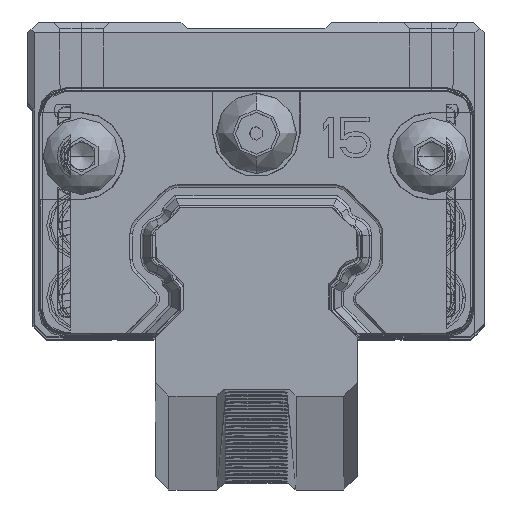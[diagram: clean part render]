
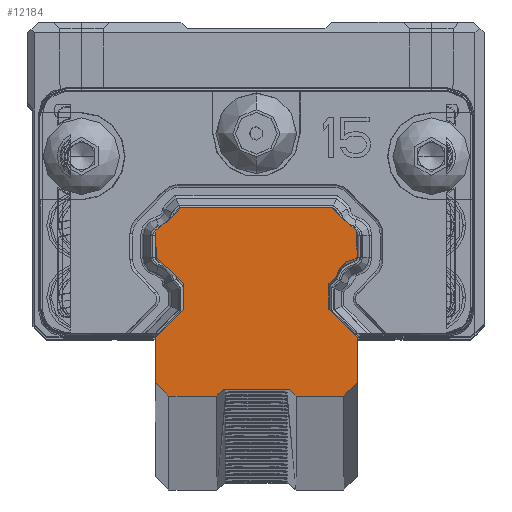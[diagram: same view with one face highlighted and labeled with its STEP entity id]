
A CAD part, top view. The second image highlights one B-rep face of the part: STEP entity #12184.
In plain terms, the highlighted planar face has unit normal (0, 0, 1).
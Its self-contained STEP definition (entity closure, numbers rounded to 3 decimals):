
#9=DIRECTION('',(0.707,-0.707,0.));
#10=VECTOR('',#9,0.758);
#11=CARTESIAN_POINT('',(-5.936,-2.414,500.));
#12=LINE('',#11,#10);
#37=DIRECTION('',(0.707,0.707,0.));
#38=VECTOR('',#37,0.707);
#39=CARTESIAN_POINT('',(-2.95,-11.3,500.));
#40=LINE('',#39,#38);
#773=DIRECTION('',(-0.707,-0.707,0.));
#774=VECTOR('',#773,0.494);
#775=CARTESIAN_POINT('',(-5.6,2.7,500.));
#776=LINE('',#775,#774);
#1208=CARTESIAN_POINT('',(2.45,-10.8,500.));
#1210=DIRECTION('',(0.707,-0.707,0.));
#1211=VECTOR('',#1210,0.707);
#1212=CARTESIAN_POINT('',(2.45,-10.8,500.));
#1213=LINE('',#1212,#1211);
#4523=DIRECTION('',(1.,0.,0.));
#4524=VECTOR('',#4523,4.9);
#4525=CARTESIAN_POINT('',(-2.45,-10.8,500.));
#4526=LINE('',#4525,#4524);
#4527=CARTESIAN_POINT('',(-5.936,-2.414,500.));
#4528=CARTESIAN_POINT('',(-5.98,-2.183,500.));
#4529=CARTESIAN_POINT('',(-6.157,-1.769,500.));
#4530=CARTESIAN_POINT('',(-6.608,-1.371,500.));
#4531=CARTESIAN_POINT('',(-7.067,-1.061,500.));
#4532=CARTESIAN_POINT('',(-7.423,-1.005,500.));
#4534=DIRECTION('',(-0.042,0.999,0.));
#4535=VECTOR('',#4534,1.841);
#4536=CARTESIAN_POINT('',(-7.423,-1.005,500.));
#4537=LINE('',#4536,#4535);
#4538=CARTESIAN_POINT('',(-7.2,0.834,500.));
#4539=DIRECTION('',(0.,0.,-1.));
#4540=DIRECTION('',(-1.,0.,0.));
#4541=AXIS2_PLACEMENT_3D('',#4538,#4539,#4540);
#4543=CARTESIAN_POINT('',(-7.19,1.143,500.));
#4544=CARTESIAN_POINT('',(-6.98,1.203,500.));
#4545=CARTESIAN_POINT('',(-6.676,1.296,500.));
#4546=CARTESIAN_POINT('',(-6.184,1.738,500.));
#4547=CARTESIAN_POINT('',(-6.002,2.122,500.));
#4548=CARTESIAN_POINT('',(-5.949,2.351,500.));
#4550=DIRECTION('',(1.,0.,0.));
#4551=VECTOR('',#4550,11.2);
#4552=CARTESIAN_POINT('',(-5.6,2.7,500.));
#4553=LINE('',#4552,#4551);
#4554=CARTESIAN_POINT('',(5.949,2.351,500.));
#4555=CARTESIAN_POINT('',(5.998,2.141,500.));
#4556=CARTESIAN_POINT('',(6.171,1.758,500.));
#4557=CARTESIAN_POINT('',(6.589,1.387,500.));
#4558=CARTESIAN_POINT('',(7.05,1.068,500.));
#4559=CARTESIAN_POINT('',(7.418,1.006,500.));
#4561=DIRECTION('',(0.044,-0.999,0.));
#4562=VECTOR('',#4561,1.842);
#4563=CARTESIAN_POINT('',(7.418,1.006,500.));
#4564=LINE('',#4563,#4562);
#4565=CARTESIAN_POINT('',(7.2,-0.834,500.));
#4566=DIRECTION('',(0.,0.,-1.));
#4567=DIRECTION('',(1.,0.,0.));
#4568=AXIS2_PLACEMENT_3D('',#4565,#4566,#4567);
#4570=CARTESIAN_POINT('',(7.509,-2.709,500.));
#4571=DIRECTION('',(0.,0.,1.));
#4572=DIRECTION('',(-0.163,0.987,0.));
#4573=AXIS2_PLACEMENT_3D('',#4570,#4571,#4572);
#4575=DIRECTION('',(0.,-1.,0.));
#4576=VECTOR('',#4575,1.9);
#4577=CARTESIAN_POINT('',(5.4,-2.95,500.));
#4578=LINE('',#4577,#4576);
#4579=DIRECTION('',(0.707,-0.707,0.));
#4580=VECTOR('',#4579,2.97);
#4581=CARTESIAN_POINT('',(5.4,-4.85,500.));
#4582=LINE('',#4581,#4580);
#4583=DIRECTION('',(0.,-1.,0.));
#4584=VECTOR('',#4583,3.35);
#4585=CARTESIAN_POINT('',(7.5,-6.95,500.));
#4586=LINE('',#4585,#4584);
#4587=DIRECTION('',(-0.707,-0.707,0.));
#4588=VECTOR('',#4587,1.414);
#4589=CARTESIAN_POINT('',(7.5,-10.3,500.));
#4590=LINE('',#4589,#4588);
#4591=DIRECTION('',(-1.,0.,0.));
#4592=VECTOR('',#4591,3.55);
#4593=CARTESIAN_POINT('',(6.5,-11.3,500.));
#4594=LINE('',#4593,#4592);
#4595=DIRECTION('',(-1.,0.,0.));
#4596=VECTOR('',#4595,3.55);
#4597=CARTESIAN_POINT('',(-2.95,-11.3,500.));
#4598=LINE('',#4597,#4596);
#4599=DIRECTION('',(-0.707,0.707,0.));
#4600=VECTOR('',#4599,1.414);
#4601=CARTESIAN_POINT('',(-6.5,-11.3,500.));
#4602=LINE('',#4601,#4600);
#4603=DIRECTION('',(0.,1.,0.));
#4604=VECTOR('',#4603,3.35);
#4605=CARTESIAN_POINT('',(-7.5,-10.3,500.));
#4606=LINE('',#4605,#4604);
#4607=DIRECTION('',(0.707,0.707,0.));
#4608=VECTOR('',#4607,2.97);
#4609=CARTESIAN_POINT('',(-7.5,-6.95,500.));
#4610=LINE('',#4609,#4608);
#4611=DIRECTION('',(0.,1.,0.));
#4612=VECTOR('',#4611,1.9);
#4613=CARTESIAN_POINT('',(-5.4,-4.85,500.));
#4614=LINE('',#4613,#4612);
#4615=DIRECTION('',(-0.707,0.707,0.));
#4616=VECTOR('',#4615,0.494);
#4617=CARTESIAN_POINT('',(5.949,2.351,500.));
#4618=LINE('',#4617,#4616);
#4647=DIRECTION('',(0.707,0.707,0.));
#4648=VECTOR('',#4647,0.758);
#4649=CARTESIAN_POINT('',(5.4,-2.95,500.));
#4650=LINE('',#4649,#4648);
#5147=CARTESIAN_POINT('',(-5.936,-2.414,500.));
#5149=VERTEX_POINT('',#5147);
#5152=CARTESIAN_POINT('',(-7.423,-1.005,500.));
#5153=VERTEX_POINT('',#5152);
#5155=CARTESIAN_POINT('',(-5.4,-2.95,500.));
#5157=VERTEX_POINT('',#5155);
#5159=CARTESIAN_POINT('',(-5.4,-4.85,500.));
#5161=VERTEX_POINT('',#5159);
#5163=CARTESIAN_POINT('',(-7.5,-6.95,500.));
#5165=VERTEX_POINT('',#5163);
#5167=CARTESIAN_POINT('',(-7.5,-10.3,500.));
#5169=VERTEX_POINT('',#5167);
#5171=CARTESIAN_POINT('',(-6.5,-11.3,500.));
#5173=VERTEX_POINT('',#5171);
#5175=CARTESIAN_POINT('',(-2.95,-11.3,500.));
#5177=VERTEX_POINT('',#5175);
#5183=CARTESIAN_POINT('',(-2.45,-10.8,500.));
#5184=VERTEX_POINT('',#5183);
#5348=VERTEX_POINT('',#1208);
#5401=CARTESIAN_POINT('',(2.95,-11.3,500.));
#5402=VERTEX_POINT('',#5401);
#5405=CARTESIAN_POINT('',(-7.5,0.834,500.));
#5406=VERTEX_POINT('',#5405);
#5407=CARTESIAN_POINT('',(-7.249,1.13,500.));
#5408=VERTEX_POINT('',#5407);
#5409=VERTEX_POINT('',#4548);
#5410=CARTESIAN_POINT('',(-5.6,2.7,500.));
#5411=VERTEX_POINT('',#5410);
#5412=CARTESIAN_POINT('',(5.6,2.7,500.));
#5413=VERTEX_POINT('',#5412);
#5414=CARTESIAN_POINT('',(5.949,2.351,500.));
#5415=VERTEX_POINT('',#5414);
#5416=VERTEX_POINT('',#4559);
#5417=CARTESIAN_POINT('',(7.5,-0.834,500.));
#5418=VERTEX_POINT('',#5417);
#5419=CARTESIAN_POINT('',(7.249,-1.13,500.));
#5420=VERTEX_POINT('',#5419);
#5421=CARTESIAN_POINT('',(5.936,-2.414,500.));
#5422=VERTEX_POINT('',#5421);
#5423=CARTESIAN_POINT('',(5.4,-2.95,500.));
#5424=VERTEX_POINT('',#5423);
#5425=CARTESIAN_POINT('',(5.4,-4.85,500.));
#5426=VERTEX_POINT('',#5425);
#5427=CARTESIAN_POINT('',(7.5,-6.95,500.));
#5428=VERTEX_POINT('',#5427);
#5429=CARTESIAN_POINT('',(7.5,-10.3,500.));
#5430=VERTEX_POINT('',#5429);
#5431=CARTESIAN_POINT('',(6.5,-11.3,500.));
#5432=VERTEX_POINT('',#5431);
#12140=CARTESIAN_POINT('',(0.,0.,500.));
#12141=DIRECTION('',(0.,0.,1.));
#12142=DIRECTION('',(1.,0.,0.));
#12143=AXIS2_PLACEMENT_3D('',#12140,#12141,#12142);
#12144=PLANE('',#12143);
#12145=ORIENTED_EDGE('',*,*,#6280,.T.);
#12146=ORIENTED_EDGE('',*,*,#7070,.T.);
#12147=ORIENTED_EDGE('',*,*,#7055,.T.);
#12148=ORIENTED_EDGE('',*,*,#7040,.T.);
#12149=ORIENTED_EDGE('',*,*,#7025,.F.);
#12150=ORIENTED_EDGE('',*,*,#6610,.T.);
#12152=ORIENTED_EDGE('',*,*,#12151,.F.);
#12154=ORIENTED_EDGE('',*,*,#12153,.T.);
#12156=ORIENTED_EDGE('',*,*,#12155,.T.);
#12158=ORIENTED_EDGE('',*,*,#12157,.T.);
#12160=ORIENTED_EDGE('',*,*,#12159,.T.);
#12162=ORIENTED_EDGE('',*,*,#12161,.F.);
#12164=ORIENTED_EDGE('',*,*,#12163,.T.);
#12166=ORIENTED_EDGE('',*,*,#12165,.T.);
#12168=ORIENTED_EDGE('',*,*,#12167,.T.);
#12170=ORIENTED_EDGE('',*,*,#12169,.T.);
#12172=ORIENTED_EDGE('',*,*,#12171,.T.);
#12173=ORIENTED_EDGE('',*,*,#7301,.F.);
#12174=ORIENTED_EDGE('',*,*,#12135,.F.);
#12175=ORIENTED_EDGE('',*,*,#6387,.F.);
#12176=ORIENTED_EDGE('',*,*,#6370,.T.);
#12177=ORIENTED_EDGE('',*,*,#6355,.T.);
#12178=ORIENTED_EDGE('',*,*,#6340,.T.);
#12179=ORIENTED_EDGE('',*,*,#6325,.T.);
#12180=ORIENTED_EDGE('',*,*,#6310,.T.);
#12181=ORIENTED_EDGE('',*,*,#6295,.F.);
#12182=EDGE_LOOP('',(#12145,#12146,#12147,#12148,#12149,#12150,#12152,#12154,
#12156,#12158,#12160,#12162,#12164,#12166,#12168,#12170,#12172,#12173,#12174,
#12175,#12176,#12177,#12178,#12179,#12180,#12181));
#12183=FACE_OUTER_BOUND('',#12182,.F.);
#12184=ADVANCED_FACE('',(#12183),#12144,.T.);
#4533=B_SPLINE_CURVE_WITH_KNOTS('',3,(#4527,#4528,#4529,#4530,#4531,#4532),
.UNSPECIFIED.,.F.,.F.,(4,1,1,4),(0.,0.333,0.667,1.),
.UNSPECIFIED.);
#4542=CIRCLE('',#4541,0.3);
#4549=B_SPLINE_CURVE_WITH_KNOTS('',3,(#4543,#4544,#4545,#4546,#4547,#4548),
.UNSPECIFIED.,.F.,.F.,(4,1,1,4),(0.,0.333,0.667,1.),
.UNSPECIFIED.);
#4560=B_SPLINE_CURVE_WITH_KNOTS('',3,(#4554,#4555,#4556,#4557,#4558,#4559),
.UNSPECIFIED.,.F.,.F.,(4,1,1,4),(0.,0.333,0.667,1.),
.UNSPECIFIED.);
#4569=CIRCLE('',#4568,0.3);
#4574=CIRCLE('',#4573,1.6);
#6280=EDGE_CURVE('',#5149,#5153,#4533,.T.);
#6295=EDGE_CURVE('',#5149,#5157,#12,.T.);
#6310=EDGE_CURVE('',#5161,#5157,#4614,.T.);
#6325=EDGE_CURVE('',#5165,#5161,#4610,.T.);
#6340=EDGE_CURVE('',#5169,#5165,#4606,.T.);
#6355=EDGE_CURVE('',#5173,#5169,#4602,.T.);
#6370=EDGE_CURVE('',#5177,#5173,#4598,.T.);
#6387=EDGE_CURVE('',#5177,#5184,#40,.T.);
#6610=EDGE_CURVE('',#5411,#5413,#4553,.T.);
#7025=EDGE_CURVE('',#5411,#5409,#776,.T.);
#7040=EDGE_CURVE('',#5408,#5409,#4549,.T.);
#7055=EDGE_CURVE('',#5406,#5408,#4542,.T.);
#7070=EDGE_CURVE('',#5153,#5406,#4537,.T.);
#7301=EDGE_CURVE('',#5348,#5402,#1213,.T.);
#12135=EDGE_CURVE('',#5184,#5348,#4526,.T.);
#12151=EDGE_CURVE('',#5415,#5413,#4618,.T.);
#12153=EDGE_CURVE('',#5415,#5416,#4560,.T.);
#12155=EDGE_CURVE('',#5416,#5418,#4564,.T.);
#12157=EDGE_CURVE('',#5418,#5420,#4569,.T.);
#12159=EDGE_CURVE('',#5420,#5422,#4574,.T.);
#12161=EDGE_CURVE('',#5424,#5422,#4650,.T.);
#12163=EDGE_CURVE('',#5424,#5426,#4578,.T.);
#12165=EDGE_CURVE('',#5426,#5428,#4582,.T.);
#12167=EDGE_CURVE('',#5428,#5430,#4586,.T.);
#12169=EDGE_CURVE('',#5430,#5432,#4590,.T.);
#12171=EDGE_CURVE('',#5432,#5402,#4594,.T.);
